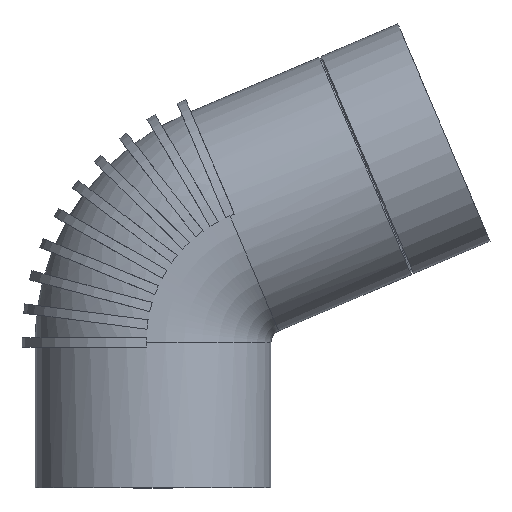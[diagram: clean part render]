
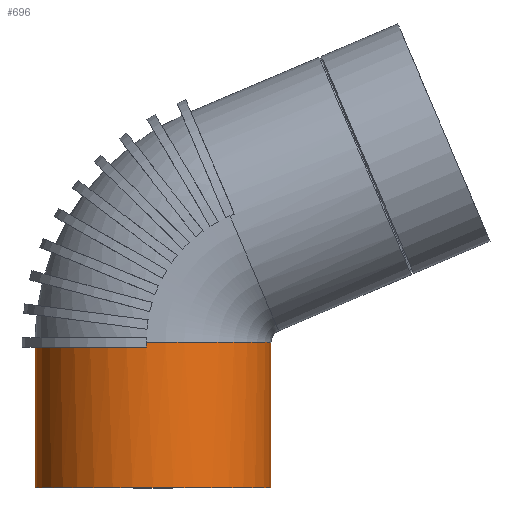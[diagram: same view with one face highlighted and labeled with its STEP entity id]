
A CAD part, top view. The second image highlights one B-rep face of the part: STEP entity #696.
In plain terms, the highlighted cylindrical face has radius 28 mm (diameter 56 mm), a full revolution.
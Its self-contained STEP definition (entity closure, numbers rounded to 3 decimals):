
#94=LINE($,#1797,#98);
#95=LINE($,#1800,#99);
#98=VECTOR($,#896,1.12);
#99=VECTOR($,#899,1.12);
#111=CYLINDRICAL_SURFACE($,#767,28.);
#127=FACE_BOUND($,#222,.T.);
#169=FACE_OUTER_BOUND($,#221,.T.);
#221=EDGE_LOOP($,(#601,#602,#603,#604));
#222=EDGE_LOOP($,(#605));
#258=CIRCLE($,#760,28.);
#261=CIRCLE($,#765,28.);
#262=CIRCLE($,#768,28.);
#327=VERTEX_POINT($,#1742);
#328=VERTEX_POINT($,#1749);
#331=VERTEX_POINT($,#1796);
#332=VERTEX_POINT($,#1799);
#333=VERTEX_POINT($,#1806);
#417=EDGE_CURVE($,#328,#327,#258,.T.);
#421=EDGE_CURVE($,#327,#331,#94,.T.);
#423=EDGE_CURVE($,#332,#328,#95,.T.);
#425=EDGE_CURVE($,#331,#332,#261,.T.);
#426=EDGE_CURVE($,#333,#333,#262,.T.);
#601=ORIENTED_EDGE($,*,*,#421,.T.);
#602=ORIENTED_EDGE($,*,*,#425,.T.);
#603=ORIENTED_EDGE($,*,*,#423,.T.);
#604=ORIENTED_EDGE($,*,*,#417,.T.);
#605=ORIENTED_EDGE($,*,*,#426,.F.);
#696=ADVANCED_FACE($,(#169,#127),#111,.T.);
#760=AXIS2_PLACEMENT_3D($,#1750,#892,#893);
#765=AXIS2_PLACEMENT_3D($,#1803,#904,#905);
#767=AXIS2_PLACEMENT_3D($,#1805,#908,#909);
#768=AXIS2_PLACEMENT_3D($,#1807,#910,#911);
#892=DIRECTION('center_axis',(0.,-1.,0.));
#893=DIRECTION('ref_axis',(1.,0.,0.));
#896=DIRECTION($,(0.,-1.,0.));
#899=DIRECTION($,(0.,1.,0.));
#904=DIRECTION('center_axis',(0.,-1.,0.));
#905=DIRECTION('ref_axis',(1.,0.,0.));
#908=DIRECTION('center_axis',(0.,-1.,0.));
#909=DIRECTION('ref_axis',(1.,0.,0.));
#910=DIRECTION('center_axis',(0.,-1.,0.));
#911=DIRECTION('ref_axis',(1.,0.,0.));
#1742=CARTESIAN_POINT('',(-1.6,34.482,27.954));
#1749=CARTESIAN_POINT('',(-1.6,34.482,-27.954));
#1750=CARTESIAN_POINT('Origin',(0.,34.482,0.));
#1796=CARTESIAN_POINT('',(-1.6,33.362,27.954));
#1797=CARTESIAN_POINT($,(-1.6,34.482,27.954));
#1799=CARTESIAN_POINT('',(-1.6,33.362,-27.954));
#1800=CARTESIAN_POINT($,(-1.6,34.482,-27.954));
#1803=CARTESIAN_POINT('Origin',(0.,33.362,0.));
#1805=CARTESIAN_POINT('Origin',(0.,17.241,0.));
#1806=CARTESIAN_POINT('',(28.,0.,0.));
#1807=CARTESIAN_POINT('Origin',(0.,0.,0.));
